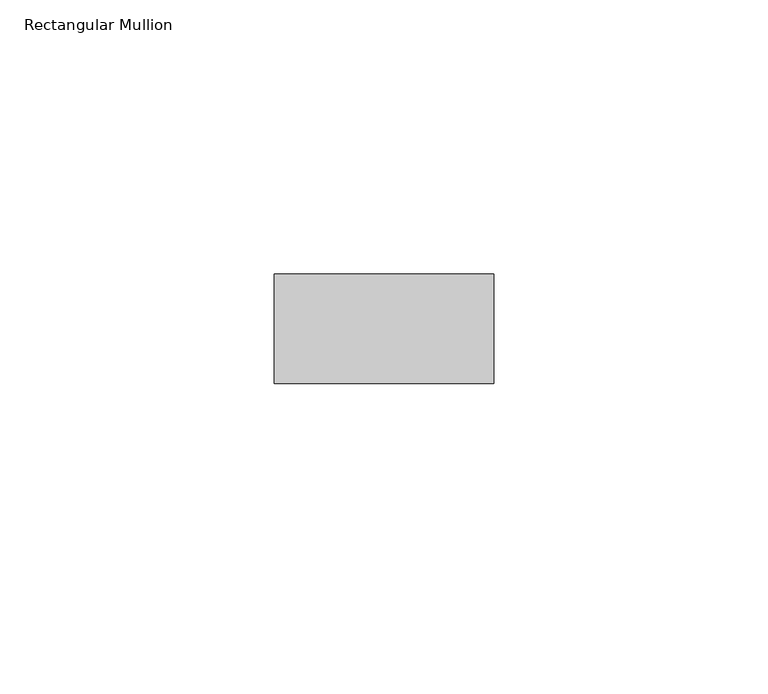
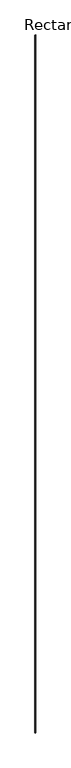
"""IFC4 building model written with IfcOpenShell, lengths in millimetres: member geometry, Rectangular Mullion : RIPA 4x2 cm."""

from ifc_helpers import new_model, si_unit, frame, origin, place, context, project, spatial, polyline, outline, extrude, source, transform, mapped, element, save


def rectangular_mullion_0c49ef61(model_context):
    return source(origin(), model_context, "Body", "SweptSolid", [
        extrude(outline(polyline([(20.0, 0.0), (20.0, -20.0), (-20.0, -20.0), (-20.0, 0.0), (20.0, 0.0)])), frame((0.0, 0.0, -37530.5608674), z_axis=(0.0, 0.0, 1.0), x_axis=(1.0, 0.0, 0.0)), (0.0, 0.0, 1.0), 37530.5608674),
    ])


if __name__ == "__main__":
    model = new_model("IFC4")
    model_context = context("Model", 3, world=origin())
    ifc_project = project(units=[si_unit("LENGTHUNIT", "METRE", prefix="MILLI")], contexts=[model_context])
    site = spatial("IfcSite", under=ifc_project)
    building = spatial("IfcBuilding", under=site)
    placement = place(None, origin())
    rectangular_mullion_shape = rectangular_mullion_0c49ef61(model_context)
    element("IfcMember", 1, ObjectType="Rectangular Mullion : RIPA 4x2 cm", at=placement, inside=building, context=model_context, shape_type="MappedRepresentation", body=[
        mapped(rectangular_mullion_shape, transform((0.0, 0.0, 0.0), x_axis=(1.0, 0.0, 0.0), y_axis=(0.0, 1.0, 0.0), z_axis=(0.0, 0.0, 1.0))),
    ])
    save(model, "model.ifc")
